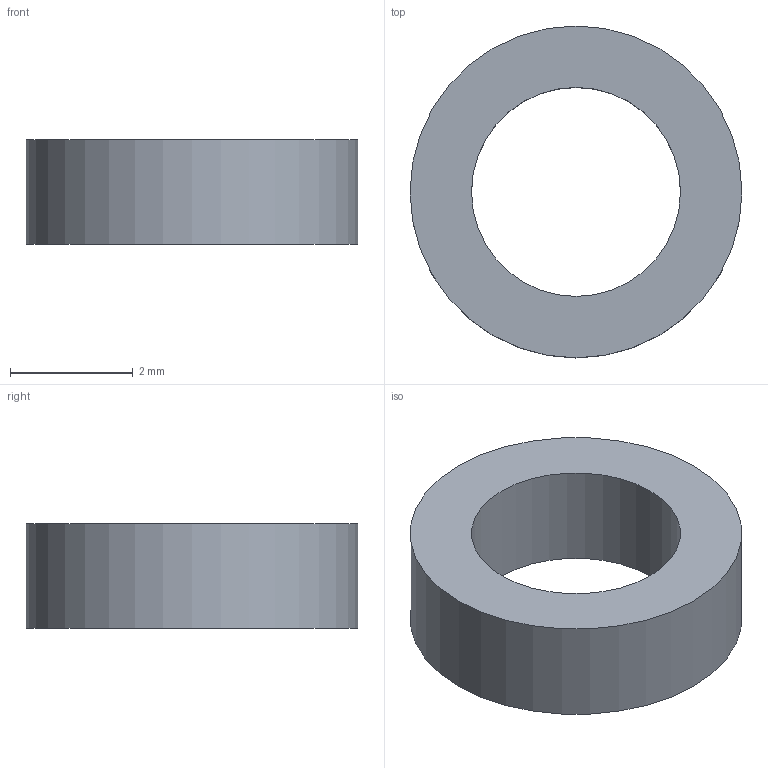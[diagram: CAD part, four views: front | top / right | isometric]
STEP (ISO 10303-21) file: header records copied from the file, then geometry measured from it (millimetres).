
FILE_DESCRIPTION(('Open CASCADE Model'),'2;1');
FILE_NAME('Open CASCADE Shape Model','2026-10-12T22:10:15',('Author'),( 'Open CASCADE'),'Open CASCADE STEP processor 7.9','Open CASCADE 7.9' ,'Unknown');
FILE_SCHEMA(('AUTOMOTIVE_DESIGN { 1 0 10303 214 1 1 1 1 }'));
Length unit declared in the file: millimetre
Products named in the file (1): Open CASCADE STEP translator 7.9 12
Bounding box: 5.4 x 5.4 x 1.7 mm (x, y, z)
Volume: 23.5 mm3; surface area: 74.6 mm2
Topology: 1 solids, 1 shells, 4 faces, 6 edges, 4 vertices
Faces by surface type: cylinder 2, plane 2
Full cylindrical faces by diameter (mm): 3.4 x1, 5.4 x1
Entity records: 186 total; most frequent: DIRECTION 32, CARTESIAN_POINT 27, ORIENTED_EDGE 12, PCURVE 12, DEFINITIONAL_REPRESENTATION 12, LINE 10, VECTOR 10, AXIS2_PLACEMENT_3D 9
